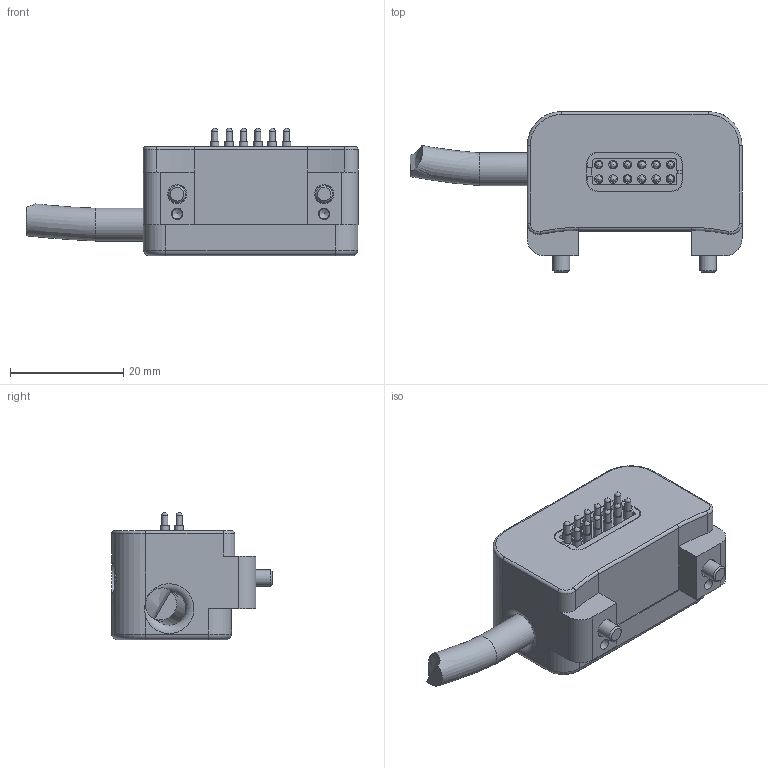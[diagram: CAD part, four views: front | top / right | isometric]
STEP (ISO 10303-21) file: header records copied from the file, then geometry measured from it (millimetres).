
FILE_DESCRIPTION(/* description */ (''),/* implementation_level */ '2;1');
FILE_NAME(/* name */ 'T:\CAD\Standard\SHW\SEK-P\SEK100\SEK100-1FE12\G-SEK100-U-1FE12-2000OE.stp',/* time_stamp */ '2021-03-04T14:41:39+01:00',/* author */ ('vbednarz'),/* organization */ (''),/* preprocessor_version */ 'ST-DEVELOPER v17',/* originating_system */ 'Autodesk Inventor 2018',/* authorisation */ '');
FILE_SCHEMA (('AUTOMOTIVE_DESIGN { 1 0 10303 214 3 1 1 }'));
Length unit declared in the file: millimetre
Products named in the file (1): G-SEK100-U-1FE12
Bounding box: 58.75 x 28.4 x 22.55 mm (x, y, z)
Volume: 13997.1 mm3; surface area: 9809.3 mm2
Topology: 2 solids, 2 shells, 534 faces, 1273 edges, 817 vertices
Faces by surface type: plane 219, cylinder 184, torus 67, bspline 41, cone 23
Full cylindrical faces by diameter (mm): 0.97 x12, 1 x2, 1.07 x12, 1.5 x12, 1.65 x12, 1.8 x2, 1.98 x12, 2.02 x2, 2.05 x4, 3 x2, 3.4 x2, 4.5 x4, 5 x4, 5.5 x2, 5.8 x2, 6 x2
Entity records: 18093 total; most frequent: CARTESIAN_POINT 4843, DIRECTION 2783, ORIENTED_EDGE 2518, EDGE_CURVE 1259, AXIS2_PLACEMENT_3D 1120, VERTEX_POINT 814, EDGE_LOOP 627, CIRCLE 626
